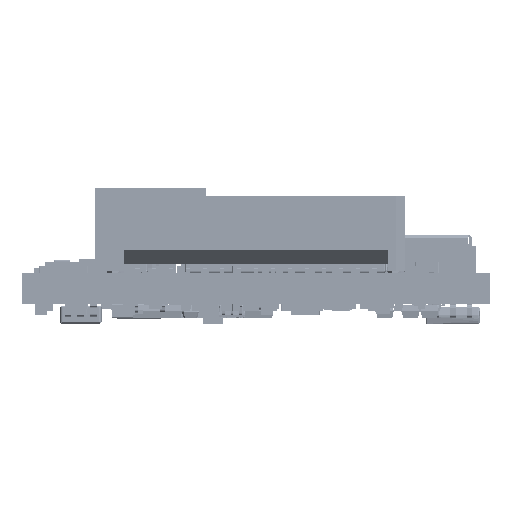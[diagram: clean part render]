
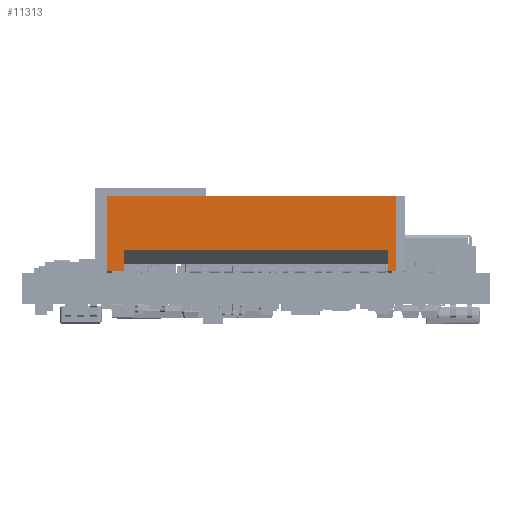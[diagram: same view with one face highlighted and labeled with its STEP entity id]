
A CAD part, left-side view. The second image highlights one B-rep face of the part: STEP entity #11313.
In plain terms, the highlighted planar face has unit normal (-1, 0, 0) as drawn and (0, -1, 0) by its records, which use the part's own axes.
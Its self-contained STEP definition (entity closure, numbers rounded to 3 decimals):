
#11313=ADVANCED_FACE('',(#25504),#25505,.F.);
#25504=FACE_OUTER_BOUND('',#42389,.T.);
#25505=PLANE('',#42390);
#42389=EDGE_LOOP('',(#68944,#68945,#68946,#68947,#68948,#68949,#68950,#68951));
#42390=AXIS2_PLACEMENT_3D('',#68952,#68953,#68954);
#68944=ORIENTED_EDGE('',*,*,#104460,.F.);
#68945=ORIENTED_EDGE('',*,*,#104454,.T.);
#68946=ORIENTED_EDGE('',*,*,#104406,.T.);
#68947=ORIENTED_EDGE('',*,*,#104516,.F.);
#68948=ORIENTED_EDGE('',*,*,#104487,.F.);
#68949=ORIENTED_EDGE('',*,*,#104514,.T.);
#68950=ORIENTED_EDGE('',*,*,#104419,.T.);
#68951=ORIENTED_EDGE('',*,*,#104447,.F.);
#68952=CARTESIAN_POINT('',(-11.113,-2.858,5.74));
#68953=DIRECTION('',(0.0,1.0,0.));
#68954=DIRECTION('',(1.0,0.0,0.0));
#104406=EDGE_CURVE('',#121751,#121749,#121752,.T.);
#104419=EDGE_CURVE('',#121772,#121770,#121773,.T.);
#104447=EDGE_CURVE('',#121816,#121770,#121818,.T.);
#104454=EDGE_CURVE('',#121824,#121751,#121829,.T.);
#104460=EDGE_CURVE('',#121824,#121816,#121835,.T.);
#104487=EDGE_CURVE('',#121876,#121878,#121879,.T.);
#104514=EDGE_CURVE('',#121876,#121772,#121910,.T.);
#104516=EDGE_CURVE('',#121878,#121749,#121912,.T.);
#121749=VERTEX_POINT('',#145757);
#121751=VERTEX_POINT('',#145760);
#121752=LINE('',#145761,#145762);
#121770=VERTEX_POINT('',#145788);
#121772=VERTEX_POINT('',#145791);
#121773=LINE('',#145792,#145793);
#121816=VERTEX_POINT('',#145856);
#121818=LINE('',#145859,#145860);
#121824=VERTEX_POINT('',#145868);
#121829=LINE('',#145876,#145877);
#121835=LINE('',#145885,#145886);
#121876=VERTEX_POINT('',#145947);
#121878=VERTEX_POINT('',#145950);
#121879=LINE('',#145951,#145952);
#121910=LINE('',#146002,#146003);
#121912=LINE('',#146005,#146006);
#145757=CARTESIAN_POINT('',(10.478,-2.858,0.152));
#145760=CARTESIAN_POINT('',(9.843,-2.858,0.152));
#145761=CARTESIAN_POINT('',(-11.113,-2.858,0.152));
#145762=VECTOR('',#184771,0.635);
#145788=CARTESIAN_POINT('',(-9.843,-2.858,0.152));
#145791=CARTESIAN_POINT('',(-11.113,-2.858,0.152));
#145792=CARTESIAN_POINT('',(-11.113,-2.858,0.152));
#145793=VECTOR('',#184781,1.27);
#145856=CARTESIAN_POINT('',(-9.843,-2.858,1.676));
#145859=CARTESIAN_POINT('',(-9.843,-2.858,1.676));
#145860=VECTOR('',#184803,1.524);
#145868=CARTESIAN_POINT('',(9.843,-2.858,1.676));
#145876=CARTESIAN_POINT('',(9.843,-2.858,1.676));
#145877=VECTOR('',#184809,1.524);
#145885=CARTESIAN_POINT('',(9.843,-2.858,1.676));
#145886=VECTOR('',#184812,19.685);
#145947=CARTESIAN_POINT('',(-11.113,-2.858,5.74));
#145950=CARTESIAN_POINT('',(10.478,-2.858,5.74));
#145951=CARTESIAN_POINT('',(-11.113,-2.858,5.74));
#145952=VECTOR('',#184834,21.59);
#146002=CARTESIAN_POINT('',(-11.113,-2.858,5.74));
#146003=VECTOR('',#184854,5.588);
#146005=CARTESIAN_POINT('',(10.478,-2.858,5.74));
#146006=VECTOR('',#184855,5.588);
#184771=DIRECTION('',(1.0,0.0,0.0));
#184781=DIRECTION('',(1.0,0.0,0.0));
#184803=DIRECTION('',(0.0,0.,-1.0));
#184809=DIRECTION('',(0.0,0.,-1.0));
#184812=DIRECTION('',(-1.0,0.0,0.0));
#184834=DIRECTION('',(1.0,0.0,0.0));
#184854=DIRECTION('',(0.0,0.,-1.0));
#184855=DIRECTION('',(0.0,0.,-1.0));
